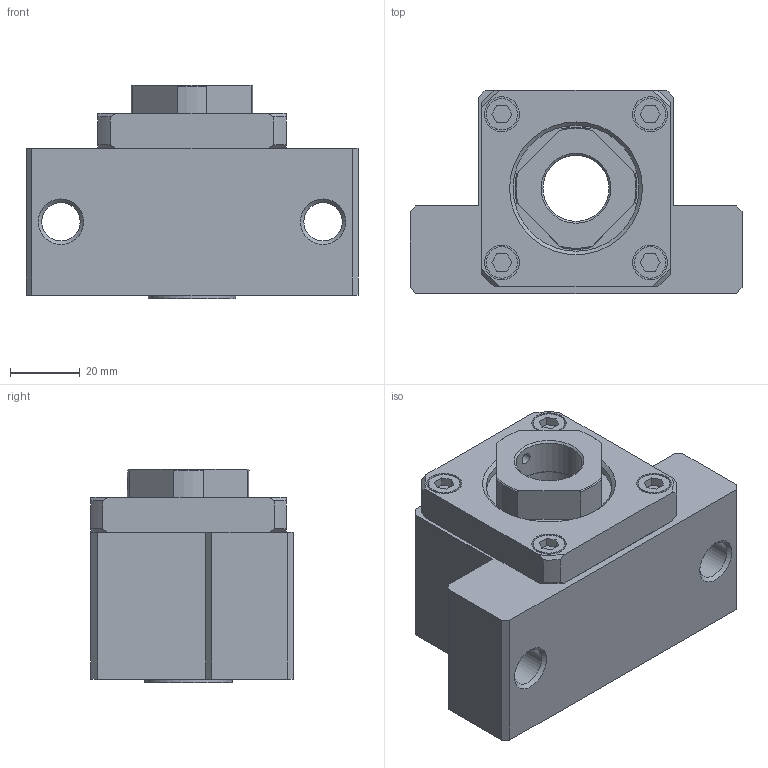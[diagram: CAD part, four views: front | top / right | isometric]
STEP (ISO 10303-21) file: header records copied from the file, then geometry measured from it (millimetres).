
FILE_DESCRIPTION(/* description */ ('STEP AP214'),/* implementation_level */ '2;1');
FILE_NAME(/* name */ 'EK20______CAD_NO_Yes',/* time_stamp */ '2026-09-17T12:57:31+02:00',/* author */ ('License CC BY-ND 4.0'),/* organization */ ('CADENAS'),/* preprocessor_version */ 'ST-DEVELOPER v20',/* originating_system */ 'PARTsolutions',/* authorisation */ ' ');
FILE_SCHEMA (('AUTOMOTIVE_DESIGN {1 0 10303 214 3 1 1}'));
Length unit declared in the file: millimetre
Products named in the file (4): EK20______CAD_NO_Yes; EK 20; EK 20collar; RN 20
Assembly tree (4 placements, depth 2):
  EK20______CAD_NO_Yes
    EK 20
    EK 20collar  x2
    RN 20
Bounding box: 95 x 58 x 61 mm (x, y, z)
Volume: 189030.6 mm3; surface area: 35565.5 mm2
Topology: 4 solids, 4 shells, 143 faces, 333 edges, 220 vertices
Faces by surface type: plane 86, cylinder 32, cone 25
Full cylindrical faces by diameter (mm): 3.242 x1, 4 x1, 9 x4, 10 x4, 11 x2, 18.917 x1, 20 x3, 25 x4, 26 x1, 36 x1, 37 x1, 37.1 x1
Entity records: 3979 total; most frequent: CARTESIAN_POINT 778, DIRECTION 630, ORIENTED_EDGE 586, EDGE_CURVE 293, AXIS2_PLACEMENT_3D 231, VERTEX_POINT 213, EDGE_LOOP 202, FACE_BOUND 202
